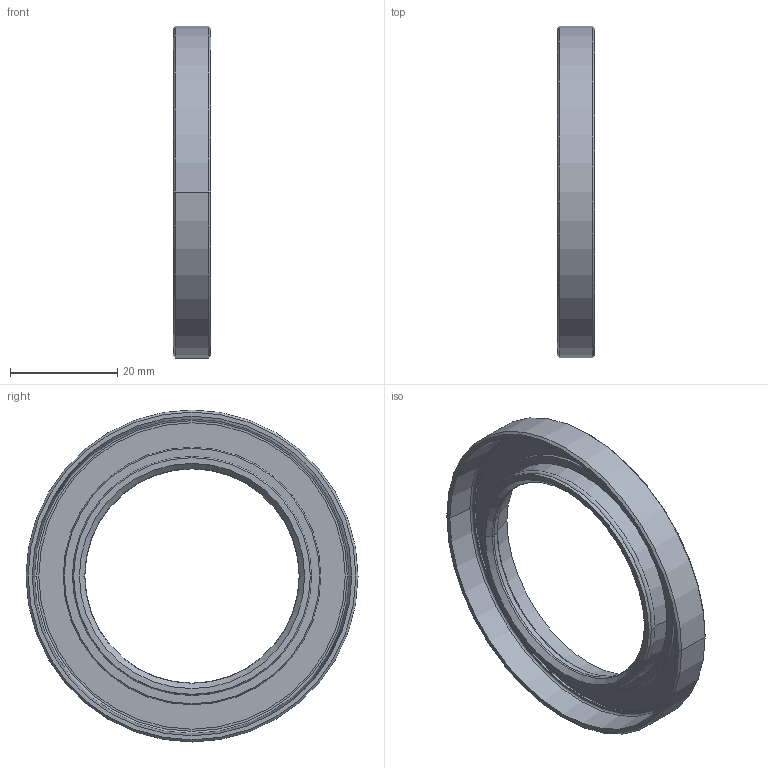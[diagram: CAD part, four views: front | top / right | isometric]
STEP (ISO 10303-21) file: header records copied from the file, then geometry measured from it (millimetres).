
FILE_DESCRIPTION((''),'2;1');
FILE_NAME('D3760_40X62X7','2002-12-05T',('Heinzelmann Stephan'),('GE Graesslin'),'PRO/ENGINEER BY PARAMETRIC TECHNOLOGY CORPORATION, 2001400','PRO/ENGINEER BY PARAMETRIC TECHNOLOGY CORPORATION, 2001400','');
FILE_SCHEMA(('CONFIG_CONTROL_DESIGN'));
Length unit declared in the file: millimetre
Products named in the file (1): D3760_40X62X7
Bounding box: 7 x 62 x 62 mm (x, y, z)
Volume: 4478.8 mm3; surface area: 7141.2 mm2
Topology: 1 solids, 1 shells, 42 faces, 84 edges, 50 vertices
Faces by surface type: cone 18, cylinder 10, plane 8, torus 6
Entity records: 1142 total; most frequent: DIRECTION 224, CARTESIAN_POINT 176, ORIENTED_EDGE 168, AXIS2_PLACEMENT_3D 98, EDGE_CURVE 84, CIRCLE 56, VERTEX_POINT 50, EDGE_LOOP 50
